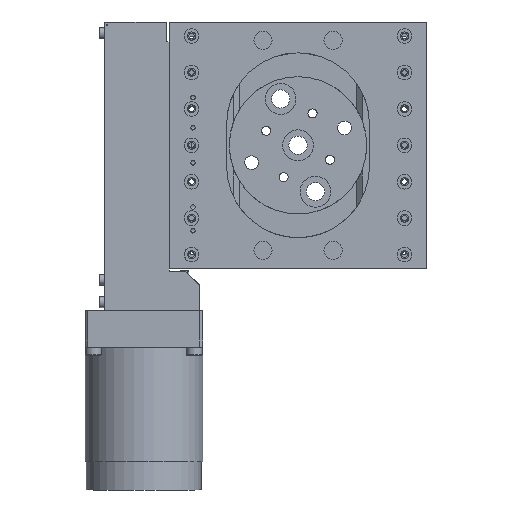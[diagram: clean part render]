
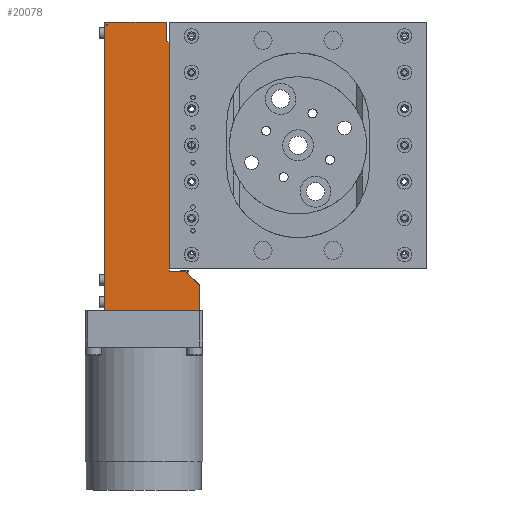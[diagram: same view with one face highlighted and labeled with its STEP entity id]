
A CAD part, front view. The second image highlights one B-rep face of the part: STEP entity #20078.
In plain terms, the highlighted planar face has unit normal (0, -1, 0).
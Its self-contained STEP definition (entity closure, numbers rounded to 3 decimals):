
#3456=FACE_OUTER_BOUND($,#4816,.T.);
#4816=EDGE_LOOP($,(#15113,#15114,#15115,#15116,#15117,#15118,#15119,#15120,
#15121,#15122,#15123,#15124,#15125,#15126,#15127,#15128));
#6525=LINE($,#29689,#7787);
#6529=LINE($,#29697,#7791);
#6532=LINE($,#29703,#7794);
#6541=LINE($,#29720,#7803);
#6560=LINE($,#29784,#7822);
#6566=LINE($,#29806,#7828);
#6775=LINE($,#30665,#8037);
#6782=LINE($,#30708,#8044);
#6788=LINE($,#30724,#8050);
#6790=LINE($,#30728,#8052);
#6822=LINE($,#30866,#8084);
#6824=LINE($,#30869,#8086);
#6825=LINE($,#30870,#8087);
#6826=LINE($,#30871,#8088);
#6827=LINE($,#30872,#8089);
#6828=LINE($,#30873,#8090);
#7787=VECTOR($,#23910,6.);
#7791=VECTOR($,#23918,7.071);
#7794=VECTOR($,#23923,9.);
#7803=VECTOR($,#23938,1.);
#7822=VECTOR($,#23993,1.);
#7828=VECTOR($,#24013,0.2);
#8037=VECTOR($,#24754,0.2);
#8044=VECTOR($,#24805,1.);
#8050=VECTOR($,#24821,1.);
#8052=VECTOR($,#24825,22.);
#8084=VECTOR($,#24921,101.6);
#8086=VECTOR($,#24925,7.);
#8087=VECTOR($,#24926,1.);
#8088=VECTOR($,#24927,1.);
#8089=VECTOR($,#24928,33.);
#8090=VECTOR($,#24929,81.);
#9118=VERTEX_POINT($,#29686);
#9119=VERTEX_POINT($,#29688);
#9121=VERTEX_POINT($,#29696);
#9123=VERTEX_POINT($,#29702);
#9128=VERTEX_POINT($,#29718);
#9153=VERTEX_POINT($,#29780);
#9155=VERTEX_POINT($,#29783);
#9162=VERTEX_POINT($,#29800);
#9164=VERTEX_POINT($,#29804);
#9409=VERTEX_POINT($,#30662);
#9410=VERTEX_POINT($,#30664);
#9424=VERTEX_POINT($,#30707);
#9429=VERTEX_POINT($,#30723);
#9430=VERTEX_POINT($,#30727);
#9467=VERTEX_POINT($,#30863);
#9468=VERTEX_POINT($,#30865);
#11267=EDGE_CURVE($,#9119,#9118,#6525,.T.);
#11271=EDGE_CURVE($,#9121,#9119,#6529,.T.);
#11274=EDGE_CURVE($,#9123,#9121,#6532,.T.);
#11284=EDGE_CURVE($,#9128,#9118,#6541,.T.);
#11310=EDGE_CURVE($,#9155,#9153,#6560,.T.);
#11320=EDGE_CURVE($,#9162,#9164,#6566,.T.);
#11665=EDGE_CURVE($,#9410,#9409,#6775,.T.);
#11682=EDGE_CURVE($,#9424,#9410,#6782,.T.);
#11690=EDGE_CURVE($,#9429,#9424,#6788,.T.);
#11692=EDGE_CURVE($,#9429,#9430,#6790,.T.);
#11744=EDGE_CURVE($,#9468,#9467,#6822,.T.);
#11746=EDGE_CURVE($,#9430,#9153,#6824,.T.);
#11747=EDGE_CURVE($,#9468,#9409,#6825,.T.);
#11748=EDGE_CURVE($,#9467,#9162,#6826,.T.);
#11749=EDGE_CURVE($,#9123,#9164,#6827,.T.);
#11750=EDGE_CURVE($,#9155,#9128,#6828,.T.);
#15113=ORIENTED_EDGE($,*,*,#11746,.F.);
#15114=ORIENTED_EDGE($,*,*,#11692,.F.);
#15115=ORIENTED_EDGE($,*,*,#11690,.T.);
#15116=ORIENTED_EDGE($,*,*,#11682,.T.);
#15117=ORIENTED_EDGE($,*,*,#11665,.T.);
#15118=ORIENTED_EDGE($,*,*,#11747,.F.);
#15119=ORIENTED_EDGE($,*,*,#11744,.T.);
#15120=ORIENTED_EDGE($,*,*,#11748,.T.);
#15121=ORIENTED_EDGE($,*,*,#11320,.T.);
#15122=ORIENTED_EDGE($,*,*,#11749,.F.);
#15123=ORIENTED_EDGE($,*,*,#11274,.T.);
#15124=ORIENTED_EDGE($,*,*,#11271,.T.);
#15125=ORIENTED_EDGE($,*,*,#11267,.T.);
#15126=ORIENTED_EDGE($,*,*,#11284,.F.);
#15127=ORIENTED_EDGE($,*,*,#11750,.F.);
#15128=ORIENTED_EDGE($,*,*,#11310,.T.);
#19290=PLANE($,#21626);
#20078=ADVANCED_FACE($,(#3456),#19290,.T.);
#21626=AXIS2_PLACEMENT_3D($,#30868,#24923,#24924);
#23910=DIRECTION($,(-1.,0.,0.));
#23918=DIRECTION($,(-0.707,0.,0.707));
#23923=DIRECTION($,(0.,0.,1.));
#23938=DIRECTION($,(0.,0.,-1.));
#23993=DIRECTION($,(-1.,0.,0.));
#24013=DIRECTION($,(0.,0.,-1.));
#24754=DIRECTION($,(0.,0.,-1.));
#24805=DIRECTION($,(1.,0.,0.));
#24821=DIRECTION($,(0.,0.,-1.));
#24825=DIRECTION($,(1.,0.,0.));
#24921=DIRECTION($,(0.,0.,-1.));
#24923=DIRECTION('center_axis',(0.,-1.,0.));
#24924=DIRECTION('ref_axis',(0.,0.,
1.));
#24925=DIRECTION($,(0.,0.,-1.));
#24926=DIRECTION($,(1.,0.,0.));
#24927=DIRECTION($,(1.,0.,0.));
#24928=DIRECTION($,(-1.,0.,0.));
#24929=DIRECTION($,(0.,0.,-1.));
#29686=CARTESIAN_POINT('',(-17.386,1.057,11.674));
#29688=CARTESIAN_POINT('',(-11.386,1.057,11.674));
#29689=CARTESIAN_POINT($,(-11.386,1.057,11.674));
#29696=CARTESIAN_POINT('',(-6.386,1.057,6.674));
#29697=CARTESIAN_POINT($,(-6.386,1.057,6.674));
#29702=CARTESIAN_POINT('',(-6.386,1.057,-2.326));
#29703=CARTESIAN_POINT($,(-6.386,1.057,-2.326));
#29718=CARTESIAN_POINT('',(-17.386,1.057,12.674));
#29720=CARTESIAN_POINT($,(-17.386,1.057,93.674));
#29780=CARTESIAN_POINT('',(-18.386,1.057,93.674));
#29783=CARTESIAN_POINT('',(-17.386,1.057,93.674));
#29784=CARTESIAN_POINT($,(-17.386,1.057,93.674));
#29800=CARTESIAN_POINT('',(-39.386,1.057,-2.126));
#29804=CARTESIAN_POINT('',(-39.386,1.057,-2.326));
#29806=CARTESIAN_POINT($,(-39.386,1.057,93.674));
#30662=CARTESIAN_POINT('',(-39.386,1.057,99.474));
#30664=CARTESIAN_POINT('',(-39.386,1.057,99.674));
#30665=CARTESIAN_POINT($,(-39.386,1.057,97.174));
#30707=CARTESIAN_POINT('',(-40.386,1.057,99.674));
#30708=CARTESIAN_POINT($,(-37.456,1.057,99.674));
#30723=CARTESIAN_POINT('',(-40.386,1.057,100.674));
#30724=CARTESIAN_POINT($,(-40.386,1.057,100.674));
#30727=CARTESIAN_POINT('',(-18.386,1.057,100.674));
#30728=CARTESIAN_POINT($,(-40.386,1.057,100.674));
#30863=CARTESIAN_POINT('',(-40.386,1.057,-2.126));
#30865=CARTESIAN_POINT('',(-40.386,1.057,99.474));
#30866=CARTESIAN_POINT($,(-40.386,1.057,99.474));
#30868=CARTESIAN_POINT('Origin',(-40.386,1.057,-2.126));
#30869=CARTESIAN_POINT($,(-18.386,1.057,100.674));
#30870=CARTESIAN_POINT($,(-40.386,1.057,99.474));
#30871=CARTESIAN_POINT($,(-40.386,1.057,-2.126));
#30872=CARTESIAN_POINT($,(-19.362,1.057,-2.326));
#30873=CARTESIAN_POINT($,(-17.386,1.057,53.174));
